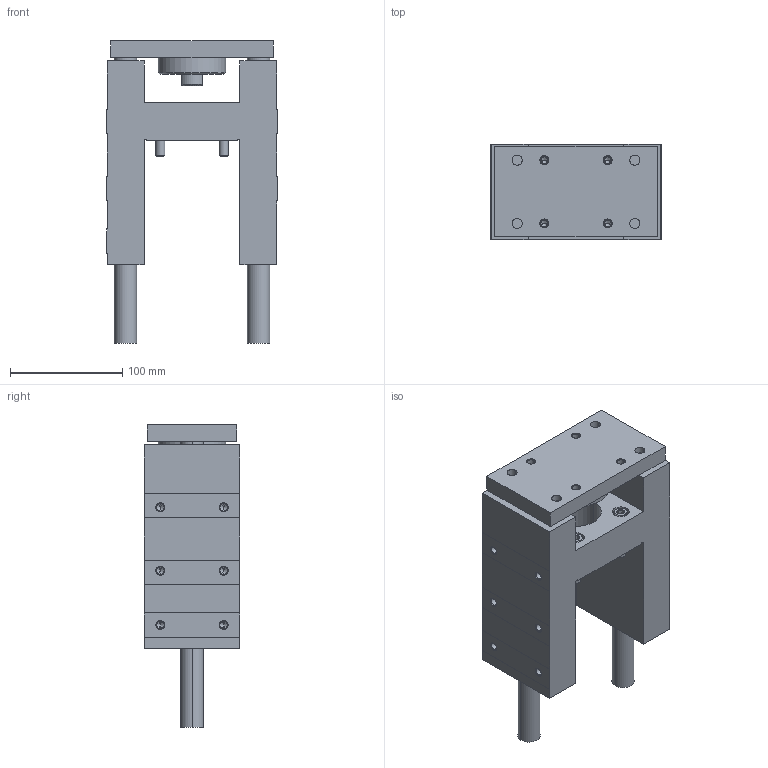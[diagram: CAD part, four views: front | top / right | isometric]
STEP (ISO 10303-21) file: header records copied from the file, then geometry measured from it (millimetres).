
FILE_DESCRIPTION (( 'STEP AP203' ), '1' );
FILE_NAME ('GB63-50.STEP', '2020-04-24T13:19:38', ( '' ), ( '' ), 'SwSTEP 2.0', 'SolidWorks 2019', '' );
FILE_SCHEMA (( 'CONFIG_CONTROL_DESIGN' ));
Length unit declared in the file: millimetre
Products named in the file (1): GB63-50
Bounding box: 152 x 85 x 270 mm (x, y, z)
Volume: 1456294.1 mm3; surface area: 220488.5 mm2
Topology: 6 solids, 6 shells, 363 faces, 814 edges, 462 vertices
Faces by surface type: cone 146, plane 115, cylinder 102
Entity records: 10453 total; most frequent: CARTESIAN_POINT 2284, DIRECTION 1812, ORIENTED_EDGE 1556, EDGE_CURVE 778, AXIS2_PLACEMENT_3D 702, VERTEX_POINT 462, EDGE_LOOP 428, VECTOR 408
